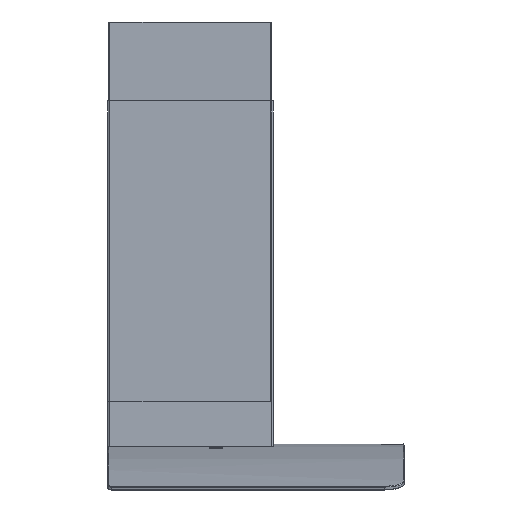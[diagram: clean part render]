
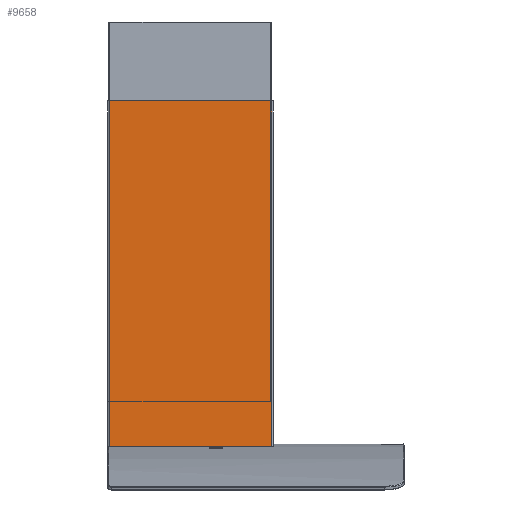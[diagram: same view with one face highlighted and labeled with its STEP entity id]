
A CAD part, left-side view. The second image highlights one B-rep face of the part: STEP entity #9658.
In plain terms, the highlighted planar face has unit normal (-1, 0, 0).
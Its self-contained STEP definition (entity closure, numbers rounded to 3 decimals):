
#9444=CARTESIAN_POINT('',(-120.05,170.528,566.8));
#9445=VERTEX_POINT('',#9444);
#9453=CARTESIAN_POINT('',(-120.05,-76.5,566.8));
#9454=VERTEX_POINT('',#9453);
#9455=CARTESIAN_POINT('',(-120.05,170.528,566.8));
#9456=DIRECTION('',(0.0,-1.0,0.0));
#9457=VECTOR('',#9456,247.028);
#9458=LINE('',#9455,#9457);
#9459=EDGE_CURVE('',#9445,#9454,#9458,.T.);
#9476=CARTESIAN_POINT('',(-120.05,170.528,25.));
#9477=VERTEX_POINT('',#9476);
#9478=CARTESIAN_POINT('',(-120.05,170.528,25.));
#9479=DIRECTION('',(0.0,0.0,1.0));
#9480=VECTOR('',#9479,541.8);
#9481=LINE('',#9478,#9480);
#9482=EDGE_CURVE('',#9477,#9445,#9481,.T.);
#9510=CARTESIAN_POINT('',(-120.05,-76.5,25.0));
#9511=VERTEX_POINT('',#9510);
#9519=CARTESIAN_POINT('',(-120.05,170.528,25.));
#9520=DIRECTION('',(0.0,-1.0,0.0));
#9521=VECTOR('',#9520,247.028);
#9522=LINE('',#9519,#9521);
#9523=EDGE_CURVE('',#9477,#9511,#9522,.T.);
#9603=CARTESIAN_POINT('',(-120.05,-76.5,25.0));
#9604=DIRECTION('',(0.0,0.0,1.0));
#9605=VECTOR('',#9604,541.8);
#9606=LINE('',#9603,#9605);
#9607=EDGE_CURVE('',#9511,#9454,#9606,.T.);
#9647=CARTESIAN_POINT('',(-120.05,172.528,25.));
#9648=DIRECTION('',(-1.0,0.0,0.0));
#9649=DIRECTION('',(0.0,-1.0,0.0));
#9650=AXIS2_PLACEMENT_3D('',#9647,#9648,#9649);
#9651=PLANE('',#9650);
#9652=ORIENTED_EDGE('',*,*,#9607,.T.);
#9653=ORIENTED_EDGE('',*,*,#9459,.F.);
#9654=ORIENTED_EDGE('',*,*,#9482,.F.);
#9655=ORIENTED_EDGE('',*,*,#9523,.T.);
#9656=EDGE_LOOP('',(#9652,#9653,#9654,#9655));
#9657=FACE_OUTER_BOUND('',#9656,.T.);
#9658=ADVANCED_FACE('',(#9657),#9651,.T.);
